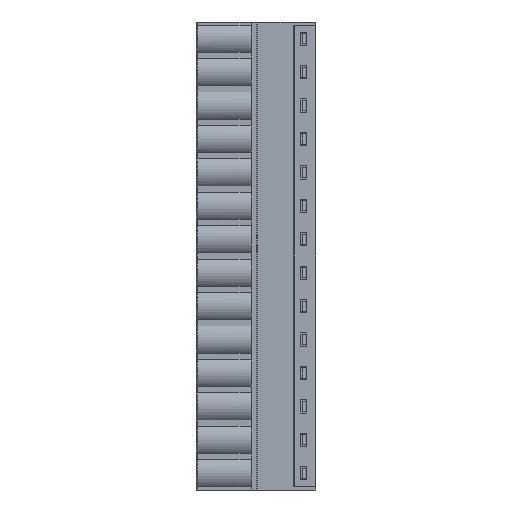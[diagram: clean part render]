
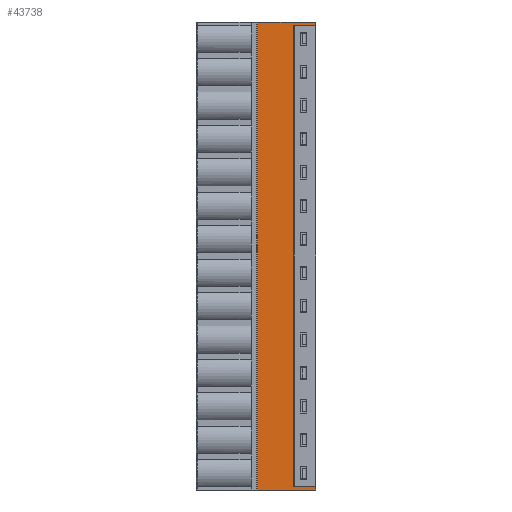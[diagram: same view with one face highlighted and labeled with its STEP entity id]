
A CAD part, left-side view. The second image highlights one B-rep face of the part: STEP entity #43738.
In plain terms, the highlighted planar face has unit normal (-1, 0, 0).
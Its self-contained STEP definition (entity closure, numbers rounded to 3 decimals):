
#970 = DIRECTION ( 'NONE',  ( 0., 0., -1. ) ) ;
#988 = CARTESIAN_POINT ( 'NONE',  ( -3.9, 3.167, 70.628 ) ) ;
#1044 = CARTESIAN_POINT ( 'NONE',  ( -3.9, 0., 70.63 ) ) ;
#1508 = VERTEX_POINT ( 'NONE', #23836 ) ;
#1745 = LINE ( 'NONE', #15345, #5346 ) ;
#4715 = VERTEX_POINT ( 'NONE', #20434 ) ;
#4815 = CARTESIAN_POINT ( 'NONE',  ( -3.9, 8.8, 71.12 ) ) ;
#4821 = VERTEX_POINT ( 'NONE', #22946 ) ;
#5099 = LINE ( 'NONE', #4815, #34528 ) ;
#5284 = ORIENTED_EDGE ( 'NONE', *, *, #9355, .F. ) ;
#5346 = VECTOR ( 'NONE', #51014, 1000. ) ;
#8363 = CARTESIAN_POINT ( 'NONE',  ( -3.9, 2.9, 0.49 ) ) ;
#8761 = EDGE_CURVE ( 'NONE', #17640, #4715, #15899, .T. ) ;
#9355 = EDGE_CURVE ( 'NONE', #53305, #35177, #53401, .T. ) ;
#13561 = ORIENTED_EDGE ( 'NONE', *, *, #47418, .F. ) ;
#14189 = EDGE_CURVE ( 'NONE', #24370, #17640, #1745, .T. ) ;
#14592 = CARTESIAN_POINT ( 'NONE',  ( -3.9, 2.9, 0.49 ) ) ;
#15345 = CARTESIAN_POINT ( 'NONE',  ( -3.9, 8.8, 71.12 ) ) ;
#15899 = LINE ( 'NONE', #16462, #34044 ) ;
#16462 = CARTESIAN_POINT ( 'NONE',  ( -3.9, 8.8, 0. ) ) ;
#16557 = AXIS2_PLACEMENT_3D ( 'NONE', #17625, #35319, #44020 ) ;
#17455 = CARTESIAN_POINT ( 'NONE',  ( -3.9, 2.9, 70.63 ) ) ;
#17573 = CARTESIAN_POINT ( 'NONE',  ( -3.9, 8.8, 71.12 ) ) ;
#17625 = CARTESIAN_POINT ( 'NONE',  ( -3.9, 8.9, 0. ) ) ;
#17640 = VERTEX_POINT ( 'NONE', #27082 ) ;
#17781 = VECTOR ( 'NONE', #47674, 1000. ) ;
#17816 = CARTESIAN_POINT ( 'NONE',  ( -3.9, 3.167, 0.492 ) ) ;
#20434 = CARTESIAN_POINT ( 'NONE',  ( -3.9, 0., 0. ) ) ;
#21410 = PLANE ( 'NONE',  #16557 ) ;
#21607 = CARTESIAN_POINT ( 'NONE',  ( -3.9, 3.3, 0.492 ) ) ;
#22271 = CARTESIAN_POINT ( 'NONE',  ( -3.9, 0.967, 0.49 ) ) ;
#22444 = CARTESIAN_POINT ( 'NONE',  ( -3.9, 3.033, 70.629 ) ) ;
#22513 = VERTEX_POINT ( 'NONE', #31631 ) ;
#22733 = CARTESIAN_POINT ( 'NONE',  ( -3.9, 3.3, 70.628 ) ) ;
#22946 = CARTESIAN_POINT ( 'NONE',  ( -3.9, 3.3, 70.628 ) ) ;
#23836 = CARTESIAN_POINT ( 'NONE',  ( -3.9, 2.9, 70.63 ) ) ;
#24370 = VERTEX_POINT ( 'NONE', #17573 ) ;
#24547 = ORIENTED_EDGE ( 'NONE', *, *, #38259, .T. ) ;
#24727 = EDGE_CURVE ( 'NONE', #57068, #29845, #35191, .T. ) ;
#25305 = CARTESIAN_POINT ( 'NONE',  ( -3.9, 0., 70.63 ) ) ;
#25969 = VECTOR ( 'NONE', #45651, 1000. ) ;
#26443 = CARTESIAN_POINT ( 'NONE',  ( -3.9, 1.933, 70.63 ) ) ;
#26617 = FACE_OUTER_BOUND ( 'NONE', #28558, .T. ) ;
#27082 = CARTESIAN_POINT ( 'NONE',  ( -3.9, 8.8, 0. ) ) ;
#28558 = EDGE_LOOP ( 'NONE', ( #38125, #32353, #13561, #5284, #40203, #24547, #49455, #48979, #45195, #54628 ) ) ;
#28669 = DIRECTION ( 'NONE',  ( 0., -1., 0. ) ) ;
#29845 = VERTEX_POINT ( 'NONE', #1044 ) ;
#30850 = CARTESIAN_POINT ( 'NONE',  ( -3.9, 0., 71.12 ) ) ;
#31631 = CARTESIAN_POINT ( 'NONE',  ( -3.9, 0., 0.49 ) ) ;
#32004 = B_SPLINE_CURVE_WITH_KNOTS ( 'NONE', 3,
 ( #8363, #48941, #22271, #44022 ),
 .UNSPECIFIED., .F., .F.,
 ( 4, 4 ),
 ( 0., 1. ),
 .UNSPECIFIED. ) ;
#32353 = ORIENTED_EDGE ( 'NONE', *, *, #32468, .F. ) ;
#32468 = EDGE_CURVE ( 'NONE', #22513, #4715, #33453, .T. ) ;
#33453 = LINE ( 'NONE', #45934, #25969 ) ;
#34044 = VECTOR ( 'NONE', #28669, 1000. ) ;
#34095 = EDGE_CURVE ( 'NONE', #4821, #53305, #45045, .T. ) ;
#34528 = VECTOR ( 'NONE', #36135, 1000. ) ;
#34859 = CARTESIAN_POINT ( 'NONE',  ( -3.9, 0.967, 70.63 ) ) ;
#34940 = CARTESIAN_POINT ( 'NONE',  ( -3.9, 2.9, 0.49 ) ) ;
#35177 = VERTEX_POINT ( 'NONE', #14592 ) ;
#35191 = LINE ( 'NONE', #30850, #17781 ) ;
#35319 = DIRECTION ( 'NONE',  ( -1., 0., 0. ) ) ;
#35407 = CARTESIAN_POINT ( 'NONE',  ( -3.9, 3.3, 0.492 ) ) ;
#35449 = CARTESIAN_POINT ( 'NONE',  ( -3.9, 0., 71.12 ) ) ;
#35785 = CARTESIAN_POINT ( 'NONE',  ( -3.9, 2.9, 70.63 ) ) ;
#36135 = DIRECTION ( 'NONE',  ( 0., -1., 0. ) ) ;
#36748 = EDGE_CURVE ( 'NONE', #24370, #57068, #5099, .T. ) ;
#38125 = ORIENTED_EDGE ( 'NONE', *, *, #8761, .T. ) ;
#38259 = EDGE_CURVE ( 'NONE', #4821, #1508, #49545, .T. ) ;
#38645 = EDGE_CURVE ( 'NONE', #1508, #29845, #55698, .T. ) ;
#39285 = CARTESIAN_POINT ( 'NONE',  ( -3.9, 3.033, 0.491 ) ) ;
#40020 = VECTOR ( 'NONE', #970, 1000. ) ;
#40203 = ORIENTED_EDGE ( 'NONE', *, *, #34095, .F. ) ;
#40698 = CARTESIAN_POINT ( 'NONE',  ( -3.9, 3.3, 70.628 ) ) ;
#43738 = ADVANCED_FACE ( 'NONE', ( #26617 ), #21410, .T. ) ;
#44020 = DIRECTION ( 'NONE',  ( 0., 0., 1. ) ) ;
#44022 = CARTESIAN_POINT ( 'NONE',  ( -3.9, 0., 0.49 ) ) ;
#45045 = LINE ( 'NONE', #40698, #40020 ) ;
#45195 = ORIENTED_EDGE ( 'NONE', *, *, #36748, .F. ) ;
#45651 = DIRECTION ( 'NONE',  ( 0., 0., -1. ) ) ;
#45934 = CARTESIAN_POINT ( 'NONE',  ( -3.9, 0., 0.49 ) ) ;
#47418 = EDGE_CURVE ( 'NONE', #35177, #22513, #32004, .T. ) ;
#47674 = DIRECTION ( 'NONE',  ( 0., 0., -1. ) ) ;
#48941 = CARTESIAN_POINT ( 'NONE',  ( -3.9, 1.933, 0.49 ) ) ;
#48979 = ORIENTED_EDGE ( 'NONE', *, *, #24727, .F. ) ;
#49455 = ORIENTED_EDGE ( 'NONE', *, *, #38645, .T. ) ;
#49545 = B_SPLINE_CURVE_WITH_KNOTS ( 'NONE', 3,
 ( #22733, #988, #22444, #35785 ),
 .UNSPECIFIED., .F., .F.,
 ( 4, 4 ),
 ( 0., 1. ),
 .UNSPECIFIED. ) ;
#51014 = DIRECTION ( 'NONE',  ( 0., 0., -1. ) ) ;
#53305 = VERTEX_POINT ( 'NONE', #35407 ) ;
#53401 = B_SPLINE_CURVE_WITH_KNOTS ( 'NONE', 3,
 ( #21607, #17816, #39285, #34940 ),
 .UNSPECIFIED., .F., .F.,
 ( 4, 4 ),
 ( 0., 1. ),
 .UNSPECIFIED. ) ;
#54628 = ORIENTED_EDGE ( 'NONE', *, *, #14189, .T. ) ;
#55698 = B_SPLINE_CURVE_WITH_KNOTS ( 'NONE', 3,
 ( #17455, #26443, #34859, #25305 ),
 .UNSPECIFIED., .F., .F.,
 ( 4, 4 ),
 ( 0., 1. ),
 .UNSPECIFIED. ) ;
#57068 = VERTEX_POINT ( 'NONE', #35449 ) ;
